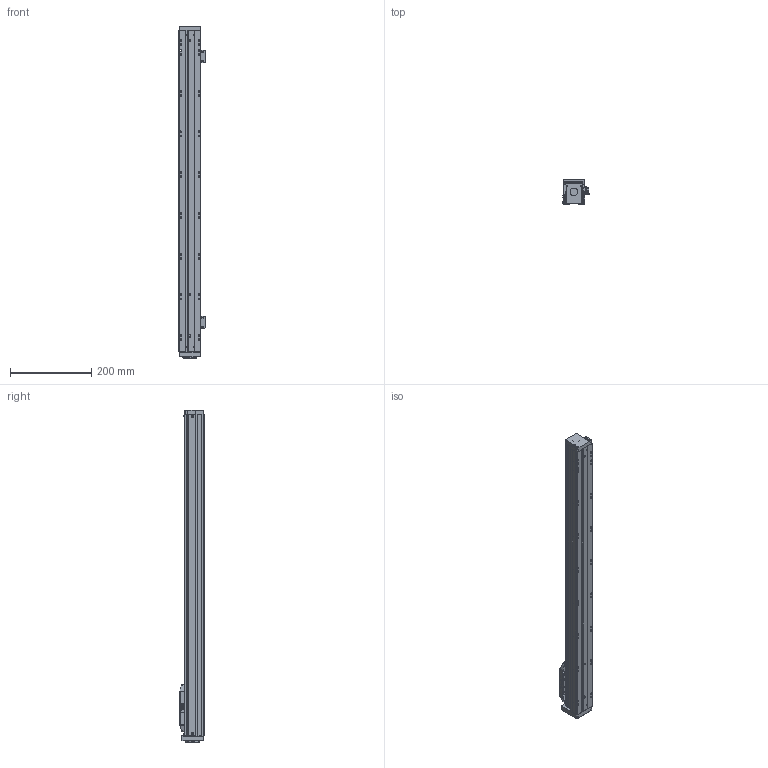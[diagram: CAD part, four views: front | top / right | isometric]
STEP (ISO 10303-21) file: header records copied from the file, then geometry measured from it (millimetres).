
FILE_DESCRIPTION (( 'STEP AP203' ), '1' );
FILE_NAME ('KTH5-L10-S650.STEP', '2019-12-19T08:38:02', ( '微软用户' ), ( '微软中国' ), 'SwSTEP 2.0', 'SolidWorks 2017', '' );
FILE_SCHEMA (( 'CONFIG_CONTROL_DESIGN' ));
Length unit declared in the file: millimetre
Products named in the file (16): EE-SX674WR嫖萇羲壽假蚾啣; 詩湍; KTH5-L10-S650; 詩湍揤啣; LES50-001菁釱; GB╱T 70.1-2008[内六角圆柱头螺钉M4×16]_M4×16; LES50-004賑釱; GB╱T 70.2-2008[内六角平圆头螺钉M3×10]_M3×10; 耜啣; ヶ裔-党蜊唳; 粣創釱-郔笝唳20190813; 階裔; 嫖萇羲壽諉揖え; 棠沭; EE-SX674; LES50-013癹弇菜
Assembly tree (31 placements, depth 2):
  KTH5-L10-S650
    LES50-001菁釱
    LES50-004賑釱
    耜啣  x2
    階裔
    棠沭  x2
    LES50-013癹弇菜  x2
    詩湍
    詩湍揤啣  x2
    GB╱T 70.1-2008[内六角圆柱头螺钉M4×16]_M4×16  x4
    GB╱T 70.2-2008[内六角平圆头螺钉M3×10]_M3×10  x8
    ヶ裔-党蜊唳
    粣創釱-郔笝唳20190813
    嫖萇羲壽諉揖え
    EE-SX674  x2
    EE-SX674WR嫖萇羲壽假蚾啣  x2
Bounding box: 64.25 x 60 x 815 mm (x, y, z)
Volume: 763145.7 mm3; surface area: 411975.8 mm2
Topology: 31 solids, 31 shells, 1429 faces, 3468 edges, 2120 vertices
Faces by surface type: plane 654, cylinder 471, cone 240, torus 36, sphere 16, bspline 12
Entity records: 33078 total; most frequent: CARTESIAN_POINT 5867, DIRECTION 5408, ORIENTED_EDGE 4988, EDGE_CURVE 2494, AXIS2_PLACEMENT_3D 1916, VERTEX_POINT 1585, LINE 1576, VECTOR 1576
